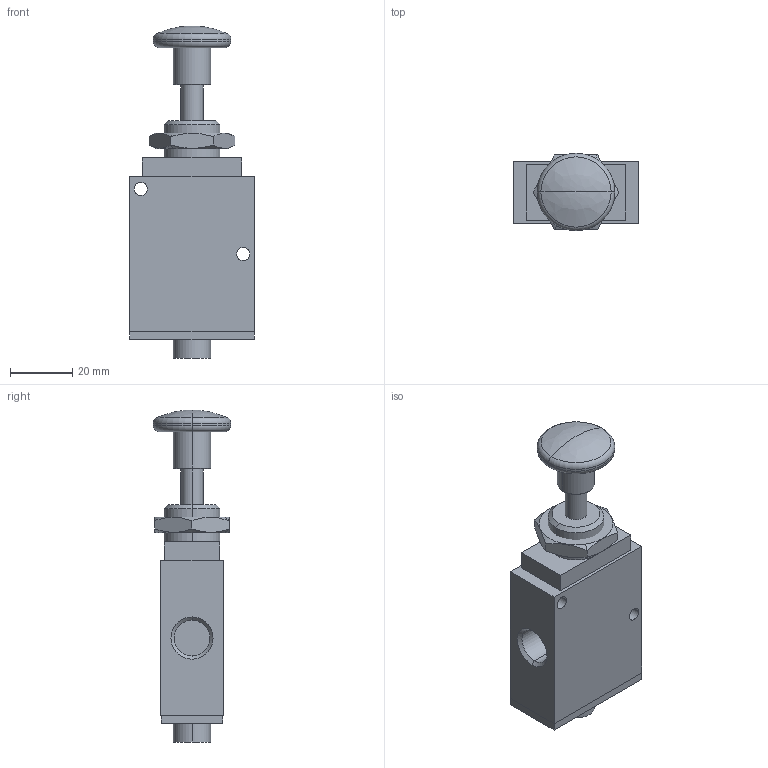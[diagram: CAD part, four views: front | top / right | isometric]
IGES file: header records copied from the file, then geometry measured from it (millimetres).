
Global section: file name: No Iges File Name specified; native system: AutoDesk Inventor R11.0; preprocessor: AutoDesk Inventor Iges Exporter R11.0; author: No Author specified; organization: No Organization specified; date: 20061219.113323; units: millimetre
Bounding box: 40 x 25 x 107 mm (x, y, z)
Volume: 51293.9 mm3; surface area: 13967.7 mm2
Topology: 2 solids, 2 shells, 78 faces, 172 edges, 105 vertices
Faces by surface type: plane 29, bspline 23, cylinder 10, revolution 6, cone 6, torus 4
